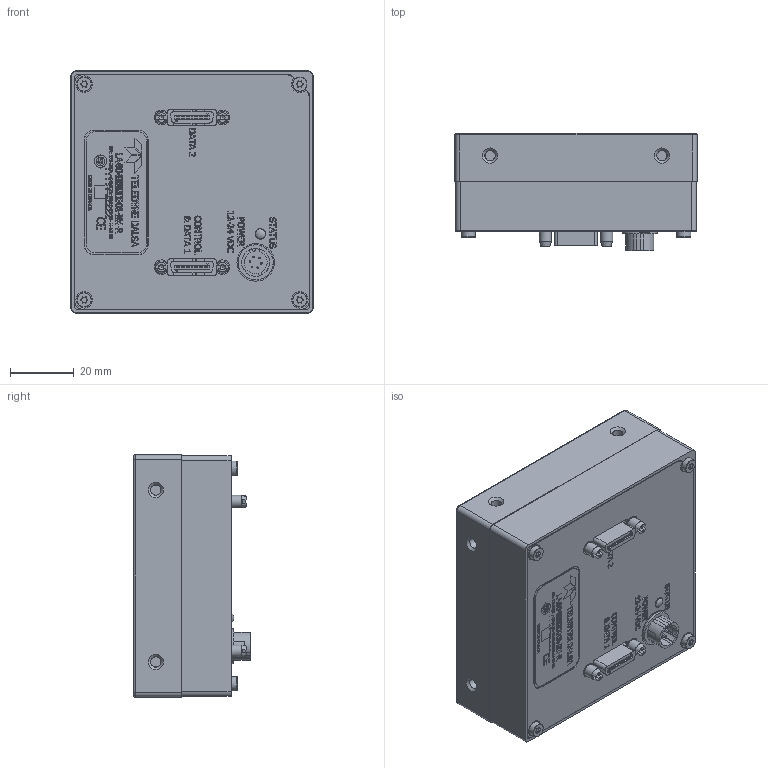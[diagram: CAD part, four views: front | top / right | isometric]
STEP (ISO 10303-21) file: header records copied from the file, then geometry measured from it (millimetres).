
FILE_DESCRIPTION(/* description */ (''),/* implementation_level */ '2;1');
FILE_NAME(/* name */ '03-129-20126-02_LINEA_8k_USER_3D_MODEL.stp',/* time_stamp */ '2014-11-12T15:42:58-05:00',/* author */ ('bogdanis'),/* organization */ (''),/* preprocessor_version */ 'ST-DEVELOPER v15.2',/* originating_system */ 'Autodesk Inventor 2014',/* authorisation */ '');
FILE_SCHEMA (('AUTOMOTIVE_DESIGN { 1 0 10303 214 3 1 1 }'));
Products named in the file (1): 03-129-20126-02 SYMPHONY 8K CL MODEL FOR STEP FILE
Bounding box: 76 x 36.72 x 76 mm (x, y, z)
Volume: 56337.6 mm3; surface area: 46230.1 mm2
Topology: 5 solids, 32 shells, 3284 faces, 8778 edges, 5834 vertices
Faces by surface type: plane 2214, bspline 796, cylinder 225, cone 44, torus 4, sphere 1
Full cylindrical faces by diameter (mm): 0.092 x1, 0.17 x2, 0.5 x2, 0.53 x6, 1.567 x4, 2 x5, 2.013 x16, 2.5 x4, 2.6 x3, 2.845 x1, 2.92 x1, 3.242 x12, 3.8 x4, 4.5 x4, 5.2 x3, 8 x1, 8.77 x1, 11 x1, 11.8 x1, 70.95 x1, 73 x1
Entity records: 110977 total; most frequent: CARTESIAN_POINT 31382, ORIENTED_EDGE 17210, DIRECTION 12513, EDGE_CURVE 8602, LINE 6447, VECTOR 6447, VERTEX_POINT 5774, EDGE_LOOP 3711
